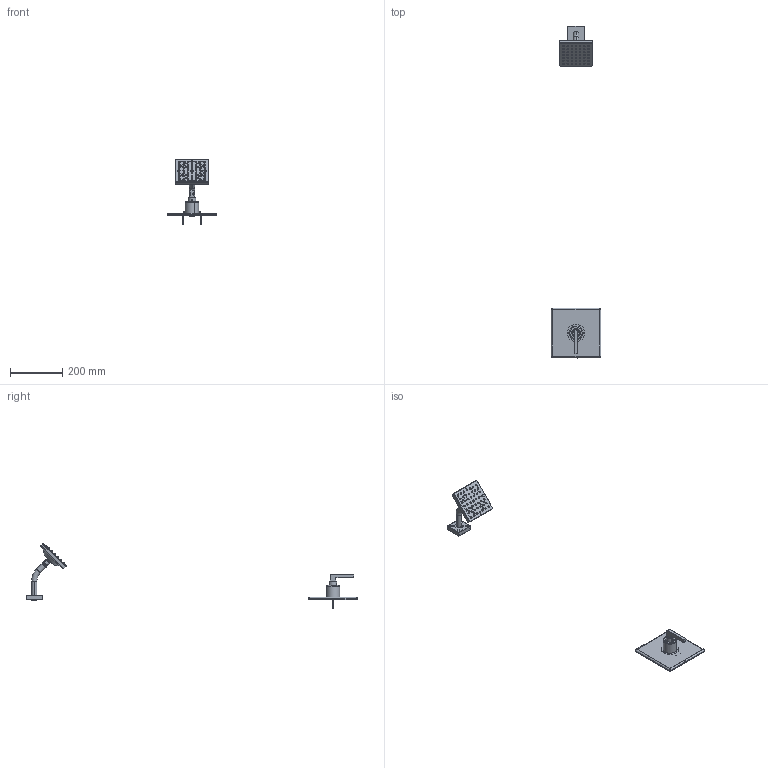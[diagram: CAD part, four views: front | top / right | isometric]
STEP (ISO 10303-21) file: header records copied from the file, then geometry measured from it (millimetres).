
FILE_DESCRIPTION (( 'STEP AP214' ), '1' );
FILE_NAME ('3691TRM.STEP', '2025-01-15T10:36:44', ( '' ), ( '' ), 'SwSTEP 2.0', 'SolidWorks 2023', '' );
FILE_SCHEMA (( 'AUTOMOTIVE_DESIGN' ));
Length unit declared in the file: inch
Products named in the file (1): 3691TRM
Bounding box: 190.5 x 1270.89 x 251.95 mm (x, y, z)
Surface area: 232442.6 mm2 (no closed solid volume)
Topology: 0 solids, 154 shells, 940 faces, 3148 edges, 2299 vertices
Faces by surface type: cylinder 301, plane 297, cone 163, bspline 151, torus 24, sphere 4
Entity records: 67365 total; most frequent: CARTESIAN_POINT 42399, ORIENTED_EDGE 4737, DIRECTION 4583, EDGE_CURVE 3133, VERTEX_POINT 2296, AXIS2_PLACEMENT_3D 1694, LINE 1195, VECTOR 1195
